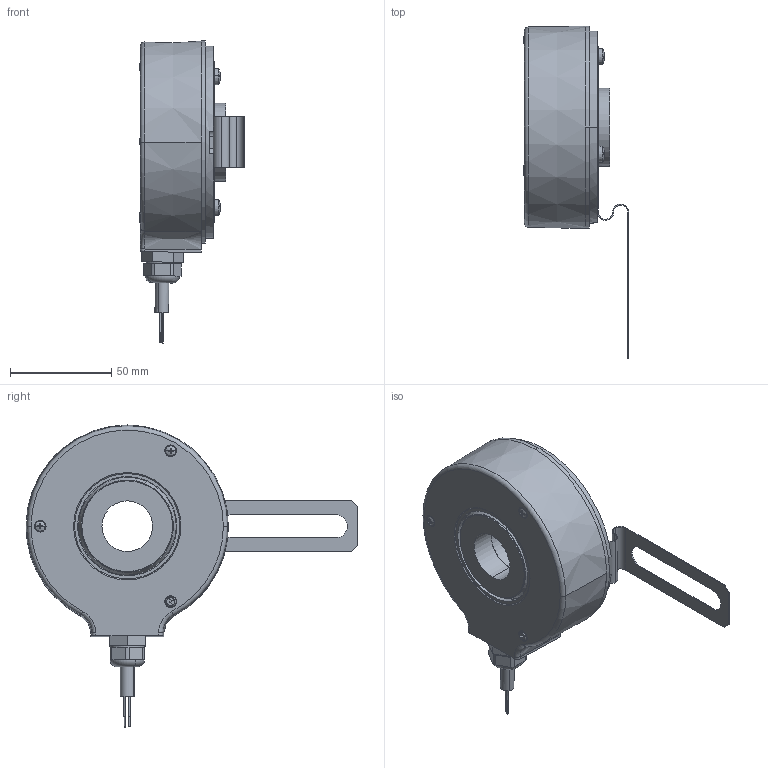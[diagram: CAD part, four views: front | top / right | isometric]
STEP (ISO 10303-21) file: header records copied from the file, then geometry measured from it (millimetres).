
FILE_DESCRIPTION (( 'STEP AP203' ), '1' );
FILE_NAME ('A020.55X1.XXXX.STEP', '2011-11-03T07:20:28', ( 'Hodot' ), ( 'Kuebler' ), 'SwSTEP 2.0', 'SolidWorks 2009', '' );
FILE_SCHEMA (( 'CONFIG_CONTROL_DESIGN' ));
Length unit declared in the file: millimetre
Products named in the file (1): A020.55X1.XXXX
Bounding box: 52.1 x 164 x 149.2 mm (x, y, z)
Volume: 169756.8 mm3; surface area: 91499.2 mm2
Topology: 19 solids, 19 shells, 725 faces, 1842 edges, 1137 vertices
Faces by surface type: cylinder 255, plane 247, cone 117, sphere 58, torus 44, bspline 4
Entity records: 24011 total; most frequent: CARTESIAN_POINT 6796, DIRECTION 3793, ORIENTED_EDGE 3376, EDGE_CURVE 1688, AXIS2_PLACEMENT_3D 1539, VERTEX_POINT 1065, EDGE_LOOP 899, CIRCLE 817
